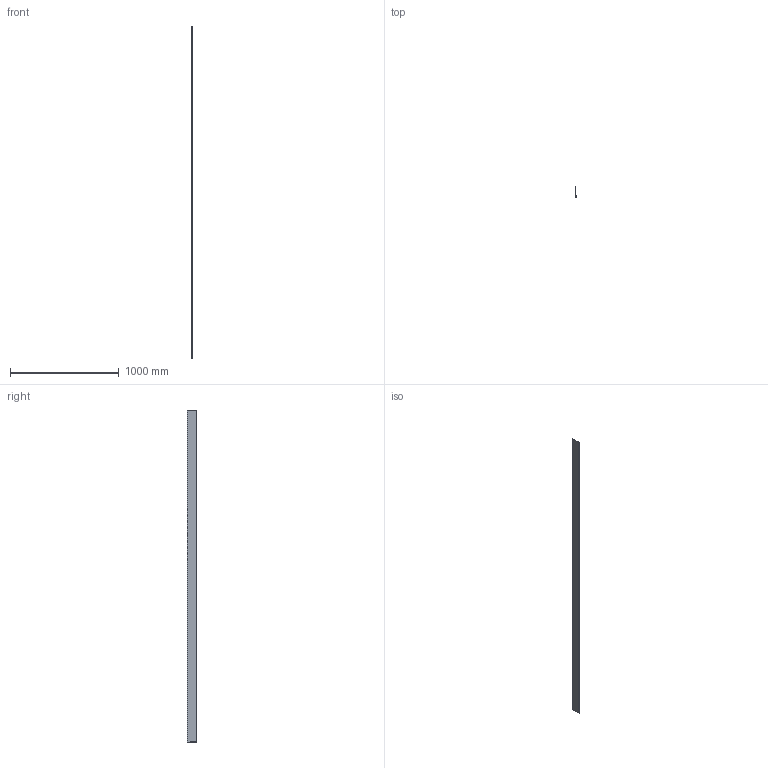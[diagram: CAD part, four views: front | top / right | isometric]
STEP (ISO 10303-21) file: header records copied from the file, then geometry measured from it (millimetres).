
FILE_DESCRIPTION (( 'STEP AP203' ), '1' );
FILE_NAME ('M10G.STEP', '2018-06-15T14:22:15', ( 'Michael Moliner' ), ( '' ), 'SwSTEP 2.0', 'SolidWorks 2018', '' );
FILE_SCHEMA (( 'CONFIG_CONTROL_DESIGN' ));
Length unit declared in the file: inch
Products named in the file (2): M10G
Bounding box: 2.54 x 88.9 x 3048 mm (x, y, z)
Volume: 158325.1 mm3; surface area: 626528 mm2
Topology: 1 solids, 1 shells, 10 faces, 24 edges, 16 vertices
Faces by surface type: plane 8, cylinder 2
Entity records: 449 total; most frequent: CARTESIAN_POINT 52, DIRECTION 52, ORIENTED_EDGE 48, EDGE_CURVE 24, LINE 20, VECTOR 20, VERTEX_POINT 16, AXIS2_PLACEMENT_3D 16
